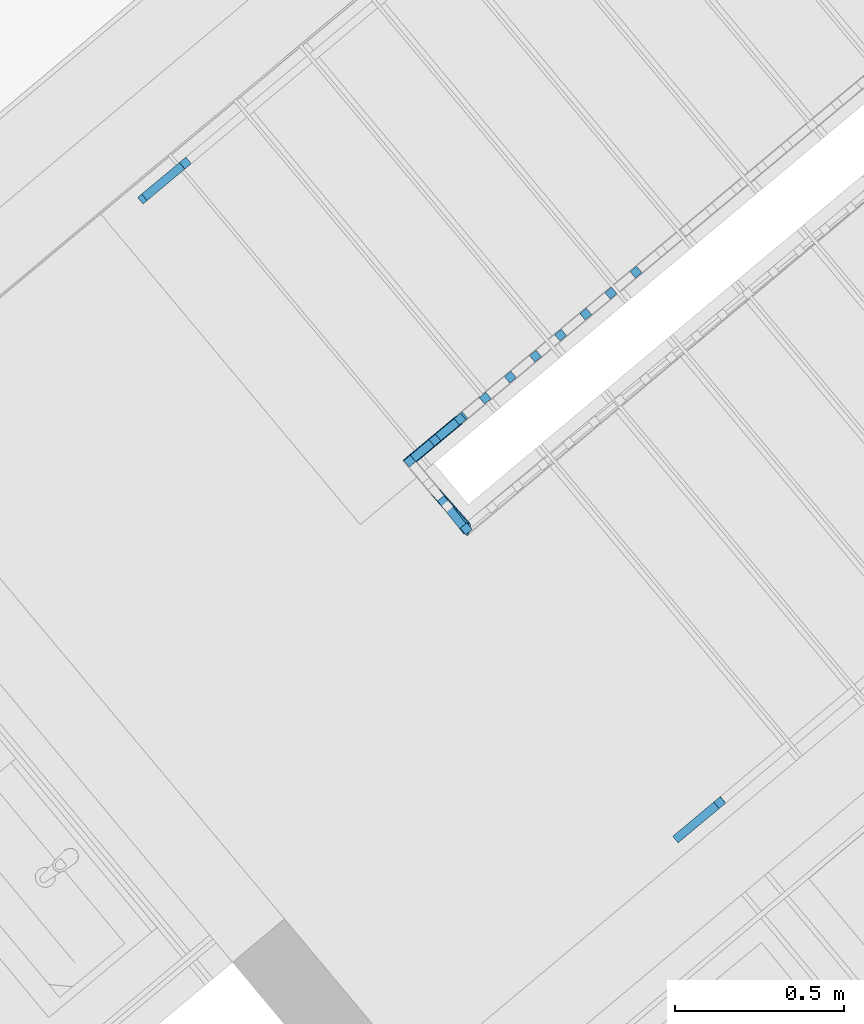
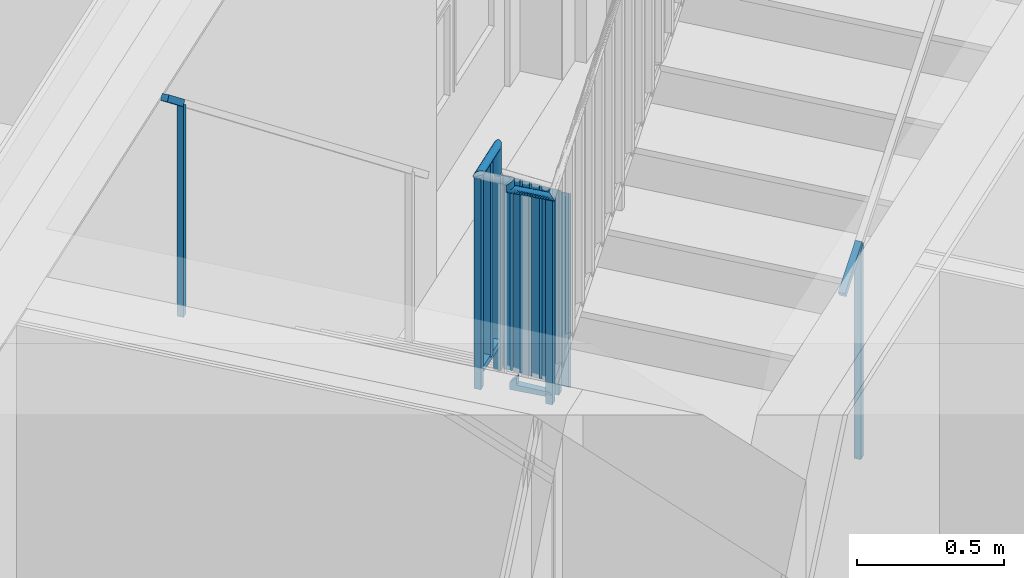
# One storey, part 54 of 67: 19 building element parts, 3 elements without a shape of their own.
"""IFC4 building model written with IfcOpenShell, lengths in metres."""

from ifc_helpers import new_model, entity, si_unit, converted_unit, derived_unit, direction, frame, origin_with_axes, place, context, subcontext, project, spatial, polygons, material, type_object, element, aggregate, save


model = new_model("IFC4")

# Units and contexts
model_context = context("Model", 3, precision=1e-05, world=origin_with_axes(), true_north=direction((0.0, 1.0)))
body_context = subcontext(model_context, "Body", "Model", "MODEL_VIEW")
ifc_project = project(units=[si_unit("LENGTHUNIT", "METRE"), si_unit("AREAUNIT", "SQUARE_METRE"), si_unit("VOLUMEUNIT", "CUBIC_METRE"), converted_unit("PLANEANGLEUNIT", "DEGREE", entity("IfcPlaneAngleMeasure", 0.0174532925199), si_unit("PLANEANGLEUNIT", "RADIAN"), dimensions=[0, 0, 0, 0, 0, 0, 0]), converted_unit("TIMEUNIT", "Year", entity("IfcTimeMeasure", 31556926.0), si_unit("TIMEUNIT", "SECOND"), dimensions=[0, 0, 1, 0, 0, 0, 0]), si_unit("MASSUNIT", "GRAM", prefix="KILO"), si_unit("THERMODYNAMICTEMPERATUREUNIT", "DEGREE_CELSIUS"), si_unit("LUMINOUSINTENSITYUNIT", "LUMEN"), si_unit("ENERGYUNIT", "JOULE", prefix="MEGA"), derived_unit("THERMALCONDUCTANCEUNIT", [(si_unit("POWERUNIT", "WATT"), 1), (si_unit("LENGTHUNIT", "METRE"), -1), (si_unit("THERMODYNAMICTEMPERATUREUNIT", "KELVIN"), -1)]), derived_unit("SPECIFICHEATCAPACITYUNIT", [(si_unit("ENERGYUNIT", "JOULE"), 1), (si_unit("MASSUNIT", "GRAM", prefix="KILO"), -1), (si_unit("THERMODYNAMICTEMPERATUREUNIT", "KELVIN"), -1)]), derived_unit("MASSDENSITYUNIT", [(si_unit("MASSUNIT", "GRAM", prefix="KILO"), 1), (si_unit("VOLUMEUNIT", "CUBIC_METRE"), -1)])], contexts=[model_context])

# Site, building, storey
site_placement = place(None, frame((-0.00153261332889, -0.00661245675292, 0.0), z_axis=(0.0, 0.0, 1.0), x_axis=(1.0, 0.0, 0.0)))
site = spatial("IfcSite", under=ifc_project, at=site_placement, Name="Site", CompositionType="ELEMENT")
building_placement = place(site_placement, origin_with_axes())
building = spatial("IfcBuilding", under=site, at=building_placement, Name="Building", CompositionType="ELEMENT")
storey_placement = place(building_placement, frame((0.0, 0.0, -0.22), z_axis=(0.0, 0.0, 1.0), x_axis=(1.0, 0.0, 0.0)))
storey = spatial("IfcBuildingStorey", under=building, at=storey_placement, Name="EG", CompositionType="ELEMENT", Elevation=-0.22)

# Railing, building element parts
railing_type = type_object("IfcRailingType", Name="Geländerart", PredefinedType="NOTDEFINED")
railing_1_placement = place(storey_placement, frame((-0.398547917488, 23.8355657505, 0.05), z_axis=(0.0, 0.0, 1.0), x_axis=(1.0, 0.0, 0.0)))
railing_1 = element("IfcRailing", 1, at=railing_1_placement, inside=storey, type_object=railing_type, Name="Geländer - 001", PredefinedType="NOTDEFINED")
ifc_material = material(Name="BEKLEIDUNG")
building_element_part_1_placement = place(railing_1_placement, origin_with_axes())
building_element_part_1 = element("IfcBuildingElementPart", 2, at=building_element_part_1_placement, material=ifc_material, Name="BEKLEIDUNG", PredefinedType="NOTDEFINED", context=body_context, shape_type="Tessellation", body=[
    polygons([(-1.83073465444, -1.44815547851, 1.77058823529), (-1.81470539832, -1.46734044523, 1.77058823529), (-1.81470539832, -1.46734044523, 2.65058823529), (-1.83073465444, -1.44815547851, 2.65058823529), (-1.81154968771, -1.43212622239, 1.77058823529), (-1.79552043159, -1.45131118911, 1.77058823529), (-1.79552043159, -1.45131118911, 2.65058823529), (-1.81154968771, -1.43212622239, 2.65058823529)], [[[1, 2, 3, 4]], [[1, 5, 6, 2]], [[2, 6, 7, 3]], [[4, 3, 7, 8]], [[5, 1, 4, 8]], [[6, 5, 8, 7]]], closed=True),
])
building_element_part_2_placement = place(railing_1_placement, origin_with_axes())
building_element_part_2 = element("IfcBuildingElementPart", 3, at=building_element_part_2_placement, material=ifc_material, Name="BEKLEIDUNG", PredefinedType="NOTDEFINED", context=body_context, shape_type="Tessellation", body=[
    polygons([(-1.65806995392, -1.30389217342, 1.7297425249), (-1.67725492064, -1.31992142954, 1.71753377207), (-1.67725492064, -1.31992142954, 1.82808823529), (-1.83073514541, -1.44815588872, 1.82808823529), (-1.83073514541, -1.44815588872, 1.85308823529), (-1.65806995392, -1.30389217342, 1.85308823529), (-1.6420406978, -1.32307714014, 1.7297425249), (-1.66122566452, -1.33910639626, 1.71753377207), (-1.66122566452, -1.33910639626, 1.82808823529), (-1.79551994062, -1.4513107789, 1.82808823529), (-1.79551994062, -1.4513107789, 1.85308823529), (-1.6420406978, -1.32307714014, 1.85308823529)], [[[1, 2, 3, 4, 5, 6]], [[1, 7, 8, 2]], [[2, 8, 9, 3]], [[3, 9, 10, 4]], [[5, 4, 10, 11]], [[12, 6, 5, 11]], [[7, 1, 6, 12]], [[8, 7, 12, 11, 10, 9]]], closed=True),
])
building_element_part_3_placement = place(railing_1_placement, origin_with_axes())
building_element_part_3 = element("IfcBuildingElementPart", 4, at=building_element_part_3_placement, material=ifc_material, Name="BEKLEIDUNG", PredefinedType="NOTDEFINED", context=body_context, shape_type="Tessellation", body=[
    polygons([(-1.66154123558, -1.34262781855, 2.54631289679), (-1.65968848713, -1.34078287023, 2.5475849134), (-1.65968848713, -1.34078287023, 2.65819295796), (-1.66154123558, -1.34262781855, 2.65558823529), (-1.66368620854, -1.34412301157, 2.54504088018), (-1.66605823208, -1.3452230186, 2.54380751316), (-1.66858523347, -1.34589441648, 2.54265027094), (-1.67119043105, -1.34611680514, 2.54160431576), (-1.67379466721, -1.3458834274, 2.54070142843), (-1.67631881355, -1.34520137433, 2.53996904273), (-1.67868617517, -1.34409136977, 2.53942941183), (-1.68082482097, -1.34258714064, 2.53909893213), (-1.68266976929, -1.34073439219, 2.53898764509), (-1.68416496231, -1.33858941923, 2.53909893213), (-1.68526496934, -1.33621739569, 2.53942941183), (-1.68593636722, -1.3336903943, 2.53996904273), (-1.68615875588, -1.33108519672, 2.54070142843), (-1.68592537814, -1.32848096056, 2.54160431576), (-1.68524332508, -1.32595681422, 2.54265027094), (-1.68413332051, -1.3235894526, 2.54380751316), (-1.68262909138, -1.3214508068, 2.54504088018), (-1.68077634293, -1.31960585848, 2.54631289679), (-1.67863136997, -1.31811066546, 2.5475849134), (-1.67625934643, -1.31701065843, 2.54881828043), (-1.67373234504, -1.31633926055, 2.54997552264), (-1.67112714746, -1.31611687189, 2.55102147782), (-1.6685229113, -1.31635024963, 2.55192436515), (-1.66599876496, -1.31703230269, 2.55265675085), (-1.66363140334, -1.31814230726, 2.55319638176), (-1.66149275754, -1.31964653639, 2.55352686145), (-1.65964780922, -1.32149928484, 2.55363814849), (-1.6581526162, -1.3236442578, 2.55352686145), (-1.65705260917, -1.32601628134, 2.55319638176), (-1.65638121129, -1.32854328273, 2.55265675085), (-1.65615882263, -1.33114848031, 2.55192436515), (-1.65639220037, -1.33375271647, 2.55102147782), (-1.65707425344, -1.33627686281, 2.54997552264), (-1.658184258, -1.33864422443, 2.54881828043), (-1.658184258, -1.33864422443, 2.66071853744), (-1.792319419, -1.45159751, 2.65819295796), (-1.79199842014, -1.45162626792, 2.65558823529), (-1.66368620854, -1.34412301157, 2.65298351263), (-1.66605823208, -1.3452230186, 2.65045793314), (-1.66858523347, -1.34589441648, 2.64808823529), (-1.67119043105, -1.34611680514, 2.64594642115), (-1.67379466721, -1.3458834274, 2.64409756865), (-1.67631881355, -1.34520137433, 2.64259785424), (-1.67868617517, -1.34409136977, 2.64149284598), (-1.68082482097, -1.34258714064, 2.640816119), (-1.68266976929, -1.34073439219, 2.64058823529), (-1.68416496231, -1.33858941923, 2.640816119), (-1.68526496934, -1.33621739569, 2.64149284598), (-1.68593636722, -1.3336903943, 2.64259785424), (-1.68615875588, -1.33108519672, 2.64409756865), (-1.68592537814, -1.32848096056, 2.64594642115), (-1.68524332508, -1.32595681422, 2.64808823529), (-1.68413332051, -1.3235894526, 2.65045793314), (-1.68262909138, -1.3214508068, 2.65298351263), (-1.68077634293, -1.31960585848, 2.65558823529), (-1.67863136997, -1.31811066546, 2.65819295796), (-1.67625934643, -1.31701065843, 2.66071853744), (-1.67373234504, -1.31633926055, 2.66308823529), (-1.67112714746, -1.31611687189, 2.66523004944), (-1.6685229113, -1.31635024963, 2.66707890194), (-1.66599876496, -1.31703230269, 2.66857861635), (-1.66363140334, -1.31814230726, 2.66968362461), (-1.66149275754, -1.31964653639, 2.67036035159), (-1.65964780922, -1.32149928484, 2.67058823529), (-1.6581526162, -1.3236442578, 2.67036035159), (-1.65705260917, -1.32601628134, 2.66968362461), (-1.65638121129, -1.32854328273, 2.66857861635), (-1.65615882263, -1.33114848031, 2.66707890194), (-1.65639220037, -1.33375271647, 2.66523004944), (-1.65707425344, -1.33627686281, 2.66308823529), (-1.79327266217, -1.45151211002, 2.66071853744), (-1.79482918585, -1.45137266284, 2.66308823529), (-1.79694169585, -1.45118340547, 2.66523004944), (-1.79954600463, -1.4509500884, 2.66707890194), (-1.80256298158, -1.45067980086, 2.66857861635), (-1.80590095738, -1.45038075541, 2.66968362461), (-1.80945850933, -1.45006203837, 2.67036035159), (-1.81312754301, -1.44973333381, 2.67058823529), (-1.8167965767, -1.44940462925, 2.67036035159), (-1.82035412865, -1.44908591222, 2.66968362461), (-1.82369210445, -1.44878686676, 2.66857861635), (-1.8267090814, -1.44851657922, 2.66707890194), (-1.82931339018, -1.44828326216, 2.66523004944), (-1.83142590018, -1.44809400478, 2.66308823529), (-1.83298242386, -1.4479545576, 2.66071853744), (-1.83393566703, -1.44786915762, 2.65819295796), (-1.83425666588, -1.4478403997, 2.65558823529), (-1.83393566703, -1.44786915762, 2.65298351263), (-1.83298242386, -1.4479545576, 2.65045793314), (-1.83142590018, -1.44809400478, 2.64808823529), (-1.82931339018, -1.44828326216, 2.64594642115), (-1.8267090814, -1.44851657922, 2.64409756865), (-1.82369210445, -1.44878686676, 2.64259785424), (-1.82035412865, -1.44908591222, 2.64149284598), (-1.8167965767, -1.44940462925, 2.640816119), (-1.81312754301, -1.44973333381, 2.64058823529), (-1.80945850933, -1.45006203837, 2.640816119), (-1.80590095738, -1.45038075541, 2.64149284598), (-1.80256298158, -1.45067980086, 2.64259785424), (-1.79954600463, -1.4509500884, 2.64409756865), (-1.79694169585, -1.45118340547, 2.64594642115), (-1.79482918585, -1.45137266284, 2.64808823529), (-1.79327266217, -1.45151211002, 2.65045793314), (-1.792319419, -1.45159751, 2.65298351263)], [[[1, 2, 3, 4]], [[1, 5, 6, 7, 8, 9, 10, 11, 12, 13, 14, 15, 16, 17, 18, 19, 20, 21, 22, 23, 24, 25, 26, 27, 28, 29, 30, 31, 32, 33, 34, 35, 36, 37, 38, 2]], [[2, 38, 39, 3]], [[4, 3, 40, 41]], [[5, 1, 4, 42]], [[6, 5, 42, 43]], [[7, 6, 43, 44]], [[8, 7, 44, 45]], [[9, 8, 45, 46]], [[10, 9, 46, 47]], [[11, 10, 47, 48]], [[12, 11, 48, 49]], [[13, 12, 49, 50]], [[14, 13, 50, 51]], [[15, 14, 51, 52]], [[16, 15, 52, 53]], [[17, 16, 53, 54]], [[18, 17, 54, 55]], [[19, 18, 55, 56]], [[20, 19, 56, 57]], [[21, 20, 57, 58]], [[22, 21, 58, 59]], [[23, 22, 59, 60]], [[24, 23, 60, 61]], [[25, 24, 61, 62]], [[26, 25, 62, 63]], [[27, 26, 63, 64]], [[28, 27, 64, 65]], [[29, 28, 65, 66]], [[30, 29, 66, 67]], [[31, 30, 67, 68]], [[32, 31, 68, 69]], [[33, 32, 69, 70]], [[34, 33, 70, 71]], [[35, 34, 71, 72]], [[36, 35, 72, 73]], [[37, 36, 73, 74]], [[38, 37, 74, 39]], [[3, 39, 75, 40]], [[41, 40, 75, 76, 77, 78, 79, 80, 81, 82, 83, 84, 85, 86, 87, 88, 89, 90, 91, 92, 93, 94, 95, 96, 97, 98, 99, 100, 101, 102, 103, 104, 105, 106, 107, 108]], [[42, 4, 41, 108]], [[43, 42, 108, 107]], [[44, 43, 107, 106]], [[45, 44, 106, 105]], [[46, 45, 105, 104]], [[47, 46, 104, 103]], [[48, 47, 103, 102]], [[49, 48, 102, 101]], [[50, 49, 101, 100]], [[51, 50, 100, 99]], [[52, 51, 99, 98]], [[53, 52, 98, 97]], [[54, 53, 97, 96]], [[55, 54, 96, 95]], [[56, 55, 95, 94]], [[57, 56, 94, 93]], [[58, 57, 93, 92]], [[59, 58, 92, 91]], [[60, 59, 91, 90]], [[61, 60, 90, 89]], [[62, 61, 89, 88]], [[63, 62, 88, 87]], [[64, 63, 87, 86]], [[65, 64, 86, 85]], [[66, 65, 85, 84]], [[67, 66, 84, 83]], [[68, 67, 83, 82]], [[69, 68, 82, 81]], [[70, 69, 81, 80]], [[71, 70, 80, 79]], [[72, 71, 79, 78]], [[73, 72, 78, 77]], [[74, 73, 77, 76]], [[39, 74, 76, 75]]], closed=True),
])
building_element_part_4_placement = place(railing_1_placement, origin_with_axes())
building_element_part_4 = element("IfcBuildingElementPart", 5, at=building_element_part_4_placement, material=ifc_material, Name="BEKLEIDUNG", PredefinedType="NOTDEFINED", context=body_context, shape_type="Tessellation", body=[
    polygons([(-1.64801867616, -1.66682135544, 1.77058823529), (-1.62883452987, -1.65079111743, 1.77058823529), (-1.62883452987, -1.65079111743, 2.61989887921), (-1.64801867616, -1.66682135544, 2.61989887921), (-1.66404891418, -1.64763720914, 1.77058823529), (-1.64486476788, -1.63160697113, 1.77058823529), (-1.64486476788, -1.63160697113, 2.61989887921), (-1.66404891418, -1.64763720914, 2.61989887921)], [[[1, 2, 3, 4]], [[1, 5, 6, 2]], [[2, 6, 7, 3]], [[4, 3, 7, 8]], [[5, 1, 4, 8]], [[6, 5, 8, 7]]], closed=True),
])
building_element_part_5_placement = place(railing_1_placement, origin_with_axes())
building_element_part_5 = element("IfcBuildingElementPart", 6, at=building_element_part_5_placement, material=ifc_material, Name="BEKLEIDUNG", PredefinedType="NOTDEFINED", context=body_context, shape_type="Tessellation", body=[
    polygons([(-1.73136158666, -1.5670809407, 1.85308823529), (-1.74739182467, -1.5478967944, 1.82808823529), (-1.74739182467, -1.5478967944, 1.79739887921), (-1.73136158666, -1.5670809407, 1.82239887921), (-1.71217744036, -1.55105070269, 1.85308823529), (-1.72820767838, -1.53186655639, 1.82808823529), (-1.72820767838, -1.53186655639, 1.79739887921), (-1.64445279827, -1.66621433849, 1.79779595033), (-1.71217744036, -1.55105070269, 1.82239887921), (-1.63893066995, -1.63383411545, 1.79779595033), (-1.6539527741, -1.66459421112, 1.82200180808), (-1.64843064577, -1.63221398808, 1.82200180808)], [[[1, 2, 3, 4]], [[1, 5, 6, 2]], [[2, 6, 7, 3]], [[4, 3, 8]], [[5, 1, 4, 9]], [[6, 5, 9, 7]], [[3, 7, 10]], [[3, 10, 8]], [[4, 8, 11]], [[9, 4, 11]], [[7, 9, 12]], [[7, 12, 10]], [[11, 8, 10, 12]], [[9, 11, 12]]], closed=True),
])
building_element_part_6_placement = place(railing_1_placement, origin_with_axes())
building_element_part_6 = element("IfcBuildingElementPart", 7, at=building_element_part_6_placement, material=ifc_material, Name="BEKLEIDUNG", PredefinedType="NOTDEFINED", context=body_context, shape_type="Tessellation", body=[
    polygons([(-1.72789228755, -1.52834511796, 2.65558823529), (-1.72639698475, -1.53049001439, 2.65819295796), (-1.72639698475, -1.53049001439, 2.62750360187), (-1.72789228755, -1.52834511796, 2.62489887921), (-1.72973733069, -1.52649246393, 2.65298351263), (-1.73187605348, -1.52498834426, 2.65045793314), (-1.7342434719, -1.52387846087, 2.64808823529), (-1.73676765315, -1.52319653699, 2.64594642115), (-1.73937190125, -1.52296329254, 2.64409756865), (-1.74197708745, -1.52318581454, 2.64259785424), (-1.74450405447, -1.52385734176, 2.64149284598), (-1.74687602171, -1.52495747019, 2.640816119), (-1.74902091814, -1.52645277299, 2.64058823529), (-1.75087357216, -1.52829781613, 2.640816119), (-1.75237769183, -1.53043653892, 2.64149284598), (-1.75348757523, -1.53280395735, 2.64259785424), (-1.7541694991, -1.53532813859, 2.64409756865), (-1.75440274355, -1.53793238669, 2.64594642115), (-1.75418022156, -1.54053757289, 2.64808823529), (-1.75350869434, -1.54306453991, 2.65045793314), (-1.7524085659, -1.54543650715, 2.65298351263), (-1.75091326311, -1.54758140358, 2.65558823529), (-1.74906821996, -1.5494340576, 2.65819295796), (-1.74692949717, -1.55093817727, 2.66071853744), (-1.74456207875, -1.55204806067, 2.66308823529), (-1.7420378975, -1.55272998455, 2.66523004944), (-1.7394336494, -1.55296322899, 2.66707890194), (-1.73682846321, -1.552740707, 2.66857861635), (-1.73430149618, -1.55206917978, 2.66968362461), (-1.73192952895, -1.55096905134, 2.67036035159), (-1.72978463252, -1.54947374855, 2.67058823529), (-1.72793197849, -1.5476287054, 2.67036035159), (-1.72642785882, -1.54548998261, 2.66968362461), (-1.72531797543, -1.54312256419, 2.66857861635), (-1.72463605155, -1.54059838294, 2.66707890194), (-1.7244028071, -1.53799413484, 2.66523004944), (-1.7246253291, -1.53538894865, 2.66308823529), (-1.72529685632, -1.53286198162, 2.66071853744), (-1.72529685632, -1.53286198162, 2.63002918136), (-1.63846858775, -1.63088446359, 2.62789734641), (-1.72973733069, -1.52649246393, 2.62229415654), (-1.73187605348, -1.52498834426, 2.61976857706), (-1.7342434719, -1.52387846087, 2.61739887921), (-1.73676765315, -1.52319653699, 2.61525706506), (-1.73937190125, -1.52296329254, 2.61340821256), (-1.74197708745, -1.52318581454, 2.61190849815), (-1.74450405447, -1.52385734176, 2.6108034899), (-1.74687602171, -1.52495747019, 2.61012676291), (-1.74902091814, -1.52645277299, 2.60989887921), (-1.75087357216, -1.52829781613, 2.61012676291), (-1.75237769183, -1.53043653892, 2.6108034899), (-1.75348757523, -1.53280395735, 2.61190849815), (-1.7541694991, -1.53532813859, 2.61340821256), (-1.75440274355, -1.53793238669, 2.61525706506), (-1.75418022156, -1.54053757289, 2.61739887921), (-1.75350869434, -1.54306453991, 2.61976857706), (-1.7524085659, -1.54543650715, 2.62229415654), (-1.75091326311, -1.54758140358, 2.62489887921), (-1.74906821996, -1.5494340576, 2.62750360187), (-1.74692949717, -1.55093817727, 2.63002918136), (-1.74456207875, -1.55204806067, 2.63239887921), (-1.7420378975, -1.55272998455, 2.63454069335), (-1.7394336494, -1.55296322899, 2.63638954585), (-1.73682846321, -1.552740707, 2.63788926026), (-1.73430149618, -1.55206917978, 2.63899426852), (-1.73192952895, -1.55096905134, 2.6396709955), (-1.72978463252, -1.54947374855, 2.63989887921), (-1.72793197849, -1.5476287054, 2.6396709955), (-1.72642785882, -1.54548998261, 2.63899426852), (-1.72531797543, -1.54312256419, 2.63788926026), (-1.72463605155, -1.54059838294, 2.63638954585), (-1.7244028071, -1.53799413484, 2.63454069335), (-1.7246253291, -1.53538894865, 2.63239887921), (-1.63957778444, -1.631597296, 2.63034269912), (-1.63742845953, -1.63075810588, 2.62537536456), (-1.63648900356, -1.63122206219, 2.62285338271), (-1.63567876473, -1.63226223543, 2.62040803), (-1.63502236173, -1.63384702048, 2.61811360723), (-1.63453973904, -1.63592826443, 2.61603982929), (-1.63424556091, -1.63844272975, 2.61424970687), (-1.63414876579, -1.64131401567, 2.61279763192), (-1.63425229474, -1.64445487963, 2.61172772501), (-1.63455300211, -1.64776988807, 2.61107249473), (-1.63504175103, -1.65115831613, 2.61085184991), (-1.63570369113, -1.65451720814, 2.61107249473), (-1.63651870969, -1.65774450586, 2.61172772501), (-1.63746204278, -1.66074214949, 2.61279763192), (-1.63850502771, -1.66341905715, 2.61424970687), (-1.63961597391, -1.66569389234, 2.61603982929), (-1.64076112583, -1.66749753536, 2.61811360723), (-1.64190568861, -1.66877518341, 2.62040803), (-1.64301488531, -1.66948801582, 2.62285338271), (-1.64405501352, -1.66961437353, 2.62537536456), (-1.64499446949, -1.66915041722, 2.62789734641), (-1.64580470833, -1.66811024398, 2.63034269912), (-1.64646111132, -1.66652545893, 2.63263712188), (-1.64694373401, -1.66444421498, 2.63471089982), (-1.64723791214, -1.66192974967, 2.63650102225), (-1.64733470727, -1.65905846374, 2.6379530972), (-1.64723117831, -1.65591759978, 2.6390230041), (-1.64693047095, -1.65260259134, 2.63967823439), (-1.64644172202, -1.64921416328, 2.63989887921), (-1.64577978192, -1.64585527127, 2.63967823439), (-1.64496476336, -1.64262797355, 2.6390230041), (-1.64402143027, -1.63963032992, 2.6379530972), (-1.64297844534, -1.63695342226, 2.63650102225), (-1.64186749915, -1.63467858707, 2.63471089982), (-1.64072234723, -1.63287494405, 2.63263712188)], [[[1, 2, 3, 4]], [[1, 5, 6, 7, 8, 9, 10, 11, 12, 13, 14, 15, 16, 17, 18, 19, 20, 21, 22, 23, 24, 25, 26, 27, 28, 29, 30, 31, 32, 33, 34, 35, 36, 37, 38, 2]], [[2, 38, 39, 3]], [[4, 3, 40]], [[5, 1, 4, 41]], [[6, 5, 41, 42]], [[7, 6, 42, 43]], [[8, 7, 43, 44]], [[9, 8, 44, 45]], [[10, 9, 45, 46]], [[11, 10, 46, 47]], [[12, 11, 47, 48]], [[13, 12, 48, 49]], [[14, 13, 49, 50]], [[15, 14, 50, 51]], [[16, 15, 51, 52]], [[17, 16, 52, 53]], [[18, 17, 53, 54]], [[19, 18, 54, 55]], [[20, 19, 55, 56]], [[21, 20, 56, 57]], [[22, 21, 57, 58]], [[23, 22, 58, 59]], [[24, 23, 59, 60]], [[25, 24, 60, 61]], [[26, 25, 61, 62]], [[27, 26, 62, 63]], [[28, 27, 63, 64]], [[29, 28, 64, 65]], [[30, 29, 65, 66]], [[31, 30, 66, 67]], [[32, 31, 67, 68]], [[33, 32, 68, 69]], [[34, 33, 69, 70]], [[35, 34, 70, 71]], [[36, 35, 71, 72]], [[37, 36, 72, 73]], [[38, 37, 73, 39]], [[3, 39, 74]], [[3, 74, 40]], [[4, 40, 75]], [[41, 4, 75]], [[42, 41, 76]], [[43, 42, 77]], [[44, 43, 78]], [[45, 44, 79]], [[46, 45, 80]], [[47, 46, 81]], [[48, 47, 82]], [[49, 48, 83]], [[50, 49, 84]], [[51, 50, 85]], [[52, 51, 86]], [[53, 52, 87]], [[54, 53, 88]], [[55, 54, 89]], [[56, 55, 90]], [[57, 56, 91]], [[58, 57, 92]], [[59, 58, 93]], [[60, 59, 94]], [[61, 60, 95]], [[62, 61, 96]], [[63, 62, 97]], [[64, 63, 98]], [[65, 64, 99]], [[66, 65, 100]], [[67, 66, 101]], [[68, 67, 102]], [[69, 68, 103]], [[70, 69, 104]], [[71, 70, 105]], [[72, 71, 106]], [[73, 72, 107]], [[39, 73, 108]], [[39, 108, 74]], [[75, 40, 74, 108, 107, 106, 105, 104, 103, 102, 101, 100, 99, 98, 97, 96, 95, 94, 93, 92, 91, 90, 89, 88, 87, 86, 85, 84, 83, 82, 81, 80, 79, 78, 77, 76]], [[41, 75, 76]], [[42, 76, 77]], [[43, 77, 78]], [[44, 78, 79]], [[45, 79, 80]], [[46, 80, 81]], [[47, 81, 82]], [[48, 82, 83]], [[49, 83, 84]], [[50, 84, 85]], [[51, 85, 86]], [[52, 86, 87]], [[53, 87, 88]], [[54, 88, 89]], [[55, 89, 90]], [[56, 90, 91]], [[57, 91, 92]], [[58, 92, 93]], [[59, 93, 94]], [[60, 94, 95]], [[61, 95, 96]], [[62, 96, 97]], [[63, 97, 98]], [[64, 98, 99]], [[65, 99, 100]], [[66, 100, 101]], [[67, 101, 102]], [[68, 102, 103]], [[69, 103, 104]], [[70, 104, 105]], [[71, 105, 106]], [[72, 106, 107]], [[73, 107, 108]]], closed=True),
])
building_element_part_7_placement = place(railing_1_placement, origin_with_axes())
building_element_part_7 = element("IfcBuildingElementPart", 8, at=building_element_part_7_placement, material=ifc_material, Name="BEKLEIDUNG", PredefinedType="NOTDEFINED", context=body_context, shape_type="Tessellation", body=[
    polygons([(-1.16283376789, -0.890116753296, 1.21072991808), (-1.14680451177, -0.90930172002, 1.21072991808), (-1.14680451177, -0.90930172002, 2.01822991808), (-1.16283376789, -0.890116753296, 2.01822991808), (-1.14364880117, -0.874087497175, 1.19123790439), (-1.12761954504, -0.893272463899, 1.19123790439), (-1.12761954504, -0.893272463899, 1.99873790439), (-1.14364880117, -0.874087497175, 1.99873790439)], [[[1, 2, 3, 4]], [[1, 5, 6, 2]], [[2, 6, 7, 3]], [[4, 3, 7, 8]], [[5, 1, 4, 8]], [[6, 5, 8, 7]]], closed=True),
])
building_element_part_8_placement = place(railing_1_placement, origin_with_axes())
building_element_part_8 = element("IfcBuildingElementPart", 9, at=building_element_part_8_placement, material=ifc_material, Name="BEKLEIDUNG", PredefinedType="NOTDEFINED", context=body_context, shape_type="Tessellation", body=[
    polygons([(-1.23704497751, -0.952121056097, 1.23941176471), (-1.22101572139, -0.971306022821, 1.23941176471), (-1.22101572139, -0.971306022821, 2.09612884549), (-1.23704497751, -0.952121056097, 2.09612884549), (-1.21786001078, -0.936091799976, 1.23941176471), (-1.20183075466, -0.9552767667, 1.23941176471), (-1.20183075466, -0.9552767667, 2.07663683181), (-1.21786001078, -0.936091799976, 2.07663683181)], [[[1, 2, 3, 4]], [[1, 5, 6, 2]], [[2, 6, 7, 3]], [[4, 3, 7, 8]], [[5, 1, 4, 8]], [[6, 5, 8, 7]]], closed=True),
])
building_element_part_9_placement = place(railing_1_placement, origin_with_axes())
building_element_part_9 = element("IfcBuildingElementPart", 10, at=building_element_part_9_placement, material=ifc_material, Name="BEKLEIDUNG", PredefinedType="NOTDEFINED", context=body_context, shape_type="Tessellation", body=[
    polygons([(-1.31125618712, -1.0141253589, 1.36152777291), (-1.295226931, -1.03331032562, 1.36152777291), (-1.295226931, -1.03331032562, 2.16902777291), (-1.31125618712, -1.0141253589, 2.16902777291), (-1.2920712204, -0.998096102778, 1.34203575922), (-1.27604196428, -1.0172810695, 1.34203575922), (-1.27604196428, -1.0172810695, 2.14953575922), (-1.2920712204, -0.998096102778, 2.14953575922)], [[[1, 2, 3, 4]], [[1, 5, 6, 2]], [[2, 6, 7, 3]], [[4, 3, 7, 8]], [[5, 1, 4, 8]], [[6, 5, 8, 7]]], closed=True),
])
building_element_part_10_placement = place(railing_1_placement, origin_with_axes())
building_element_part_10 = element("IfcBuildingElementPart", 11, at=building_element_part_10_placement, material=ifc_material, Name="BEKLEIDUNG", PredefinedType="NOTDEFINED", context=body_context, shape_type="Tessellation", body=[
    polygons([(-1.38546739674, -1.0761296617, 1.43692670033), (-1.36943814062, -1.09531462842, 1.43692670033), (-1.36943814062, -1.09531462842, 2.24442670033), (-1.38546739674, -1.0761296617, 2.24442670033), (-1.36628243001, -1.06010040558, 1.41743468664), (-1.35025317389, -1.0792853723, 1.41743468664), (-1.35025317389, -1.0792853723, 2.22493468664), (-1.36628243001, -1.06010040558, 2.22493468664)], [[[1, 2, 3, 4]], [[1, 5, 6, 2]], [[2, 6, 7, 3]], [[4, 3, 7, 8]], [[5, 1, 4, 8]], [[6, 5, 8, 7]]], closed=True),
])
building_element_part_11_placement = place(railing_1_placement, origin_with_axes())
building_element_part_11 = element("IfcBuildingElementPart", 12, at=building_element_part_11_placement, material=ifc_material, Name="BEKLEIDUNG", PredefinedType="NOTDEFINED", context=body_context, shape_type="Tessellation", body=[
    polygons([(-1.45967860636, -1.1381339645, 1.51232562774), (-1.44364935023, -1.15731893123, 1.51232562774), (-1.44364935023, -1.15731893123, 2.31982562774), (-1.45967860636, -1.1381339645, 2.31982562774), (-1.44049363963, -1.12210470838, 1.49283361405), (-1.42446438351, -1.1412896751, 1.49283361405), (-1.42446438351, -1.1412896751, 2.30033361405), (-1.44049363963, -1.12210470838, 2.30033361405)], [[[1, 2, 3, 4]], [[1, 5, 6, 2]], [[2, 6, 7, 3]], [[4, 3, 7, 8]], [[5, 1, 4, 8]], [[6, 5, 8, 7]]], closed=True),
])
building_element_part_12_placement = place(railing_1_placement, origin_with_axes())
building_element_part_12 = element("IfcBuildingElementPart", 13, at=building_element_part_12_placement, material=ifc_material, Name="BEKLEIDUNG", PredefinedType="NOTDEFINED", context=body_context, shape_type="Tessellation", body=[
    polygons([(-1.53388981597, -1.2001382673, 1.58772455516), (-1.51786055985, -1.21932323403, 1.58772455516), (-1.51786055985, -1.21932323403, 2.39522455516), (-1.53388981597, -1.2001382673, 2.39522455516), (-1.51470484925, -1.18410901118, 1.56823254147), (-1.49867559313, -1.20329397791, 1.56823254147), (-1.49867559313, -1.20329397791, 2.37573254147), (-1.51470484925, -1.18410901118, 2.37573254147)], [[[1, 2, 3, 4]], [[1, 5, 6, 2]], [[2, 6, 7, 3]], [[4, 3, 7, 8]], [[5, 1, 4, 8]], [[6, 5, 8, 7]]], closed=True),
])
building_element_part_13_placement = place(railing_1_placement, origin_with_axes())
building_element_part_13 = element("IfcBuildingElementPart", 14, at=building_element_part_13_placement, material=ifc_material, Name="BEKLEIDUNG", PredefinedType="NOTDEFINED", context=body_context, shape_type="Tessellation", body=[
    polygons([(-1.60810102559, -1.2621425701, 1.66312348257), (-1.59207176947, -1.28132753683, 1.66312348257), (-1.59207176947, -1.28132753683, 2.47062348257), (-1.60810102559, -1.2621425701, 2.47062348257), (-1.58891605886, -1.24611331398, 1.64363146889), (-1.57288680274, -1.26529828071, 1.64363146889), (-1.57288680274, -1.26529828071, 2.45113146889), (-1.58891605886, -1.24611331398, 2.45113146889)], [[[1, 2, 3, 4]], [[1, 5, 6, 2]], [[2, 6, 7, 3]], [[4, 3, 7, 8]], [[5, 1, 4, 8]], [[6, 5, 8, 7]]], closed=True),
])
building_element_part_14_placement = place(railing_1_placement, origin_with_axes())
building_element_part_14 = element("IfcBuildingElementPart", 15, at=building_element_part_14_placement, material=ifc_material, Name="BEKLEIDUNG", PredefinedType="NOTDEFINED", context=body_context, shape_type="Tessellation", body=[
    polygons([(-1.6823122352, -1.32414687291, 1.72363814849), (-1.66628297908, -1.34333183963, 1.72363814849), (-1.66628297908, -1.34333183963, 2.53113814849), (-1.6823122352, -1.32414687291, 2.53113814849), (-1.66312726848, -1.30811761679, 1.72363814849), (-1.64709801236, -1.32730258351, 1.72363814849), (-1.64709801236, -1.32730258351, 2.53113814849), (-1.66312726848, -1.30811761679, 2.53113814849)], [[[1, 2, 3, 4]], [[1, 5, 6, 2]], [[2, 6, 7, 3]], [[4, 3, 7, 8]], [[5, 1, 4, 8]], [[6, 5, 8, 7]]], closed=True),
])
building_element_part_15_placement = place(railing_1_placement, origin_with_axes())
building_element_part_15 = element("IfcBuildingElementPart", 16, at=building_element_part_15_placement, material=ifc_material, Name="BEKLEIDUNG", PredefinedType="NOTDEFINED", context=body_context, shape_type="Tessellation", body=[
    polygons([(-1.75652344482, -1.38615117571, 1.84058823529), (-1.7404941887, -1.40533614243, 1.84058823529), (-1.7404941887, -1.40533614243, 2.64808823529), (-1.75652344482, -1.38615117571, 2.64808823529), (-1.7373384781, -1.37012191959, 1.84058823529), (-1.72130922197, -1.38930688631, 1.84058823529), (-1.72130922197, -1.38930688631, 2.64808823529), (-1.7373384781, -1.37012191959, 2.64808823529)], [[[1, 2, 3, 4]], [[1, 5, 6, 2]], [[2, 6, 7, 3]], [[4, 3, 7, 8]], [[5, 1, 4, 8]], [[6, 5, 8, 7]]], closed=True),
])
aggregate(railing_1, [building_element_part_1, building_element_part_2, building_element_part_3, building_element_part_4, building_element_part_5, building_element_part_6, building_element_part_7, building_element_part_8, building_element_part_9, building_element_part_10, building_element_part_11, building_element_part_12, building_element_part_13, building_element_part_14, building_element_part_15])

railing_2_placement = place(storey_placement, frame((-1.26480795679, 21.3396367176, 1.82058823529), z_axis=(0.0, 0.0, 1.0), x_axis=(1.0, 0.0, 0.0)))
railing_2 = element("IfcRailing", 17, at=railing_2_placement, inside=storey, type_object=railing_type, Name="Geländer - 002", PredefinedType="NOTDEFINED")
building_element_part_16_placement = place(railing_2_placement, origin_with_axes())
building_element_part_16 = element("IfcBuildingElementPart", 18, at=building_element_part_16_placement, material=ifc_material, Name="BEKLEIDUNG", PredefinedType="NOTDEFINED", context=body_context, shape_type="Tessellation", body=[
    polygons([(-0.0144532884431, 0.0367913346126, 0.0), (-0.0304835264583, 0.0559754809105, 0.0), (-0.0304835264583, 0.0559754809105, 0.887694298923), (-0.0144532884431, 0.0367913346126, 0.887694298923), (-0.033637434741, 0.0207610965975, 0.0), (-0.0496676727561, 0.0399452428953, 0.0), (-0.0496676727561, 0.0399452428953, 0.872305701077), (-0.033637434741, 0.0207610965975, 0.872305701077)], [[[1, 2, 3, 4]], [[1, 5, 6, 2]], [[2, 6, 7, 3]], [[4, 3, 7, 8]], [[5, 1, 4, 8]], [[6, 5, 8, 7]]], closed=True),
])
building_element_part_17_placement = place(railing_2_placement, origin_with_axes())
building_element_part_17 = element("IfcBuildingElementPart", 19, at=building_element_part_17_placement, material=ifc_material, Name="BEKLEIDUNG", PredefinedType="NOTDEFINED", context=body_context, shape_type="Tessellation", body=[
    polygons([(-0.0400755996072, 0.0479603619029, 0.9), (-0.0300193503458, 0.0563633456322, 0.878710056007), (-0.160716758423, -0.0528471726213, 0.773870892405), (-0.170773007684, -0.0612501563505, 0.795160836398), (-0.024045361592, 0.0287762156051, 0.9), (-0.0139891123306, 0.0371791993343, 0.878710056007), (-0.144686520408, -0.0720313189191, 0.773870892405), (-0.154742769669, -0.0804343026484, 0.795160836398)], [[[1, 2, 3, 4]], [[1, 5, 6, 2]], [[2, 6, 7, 3]], [[4, 3, 7, 8]], [[5, 1, 4, 8]], [[6, 5, 8, 7]]], closed=True),
])
aggregate(railing_2, [building_element_part_16, building_element_part_17])

railing_3_placement = place(storey_placement, frame((-1.16795221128, 24.7564441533, 0.05), z_axis=(0.0, 0.0, 1.0), x_axis=(1.0, 0.0, 0.0)))
railing_3 = element("IfcRailing", 20, at=railing_3_placement, inside=storey, type_object=railing_type, Name="Geländer - 001", PredefinedType="NOTDEFINED")
building_element_part_18_placement = place(railing_3_placement, origin_with_axes())
building_element_part_18 = element("IfcBuildingElementPart", 21, at=building_element_part_18_placement, material=ifc_material, Name="BEKLEIDUNG", PredefinedType="NOTDEFINED", context=body_context, shape_type="Tessellation", body=[
    polygons([(-1.7238702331, -1.48917941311, 1.77058823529), (-1.70784097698, -1.50836437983, 1.77058823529), (-1.70784097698, -1.50836437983, 2.66035877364), (-1.7238702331, -1.48917941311, 2.66035877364), (-1.70468526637, -1.47315015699, 1.77058823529), (-1.68865601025, -1.49233512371, 1.77058823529), (-1.68865601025, -1.49233512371, 2.64081769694), (-1.70468526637, -1.47315015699, 2.64081769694)], [[[1, 2, 3, 4]], [[1, 5, 6, 2]], [[2, 6, 7, 3]], [[4, 3, 7, 8]], [[5, 1, 4, 8]], [[6, 5, 8, 7]]], closed=True),
])
building_element_part_19_placement = place(railing_3_placement, origin_with_axes())
building_element_part_19 = element("IfcBuildingElementPart", 22, at=building_element_part_19_placement, material=ifc_material, Name="BEKLEIDUNG", PredefinedType="NOTDEFINED", context=body_context, shape_type="Tessellation", body=[
    polygons([(-1.71427774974, -1.48116478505, 2.67058823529), (-1.72609254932, -1.49103618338, 2.65089138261), (-1.84701525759, -1.59206847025, 2.77405864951), (-1.835200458, -1.58219707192, 2.79375550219), (-1.69824849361, -1.50034975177, 2.67058823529), (-1.7100632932, -1.5102211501, 2.65089138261), (-1.83098600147, -1.61125343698, 2.77405864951), (-1.81917120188, -1.60138203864, 2.79375550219)], [[[1, 2, 3, 4]], [[1, 5, 6, 2]], [[2, 6, 7, 3]], [[4, 3, 7, 8]], [[5, 1, 4, 8]], [[6, 5, 8, 7]]], closed=True),
])
aggregate(railing_3, [building_element_part_18, building_element_part_19])

save(model, "model.ifc")
